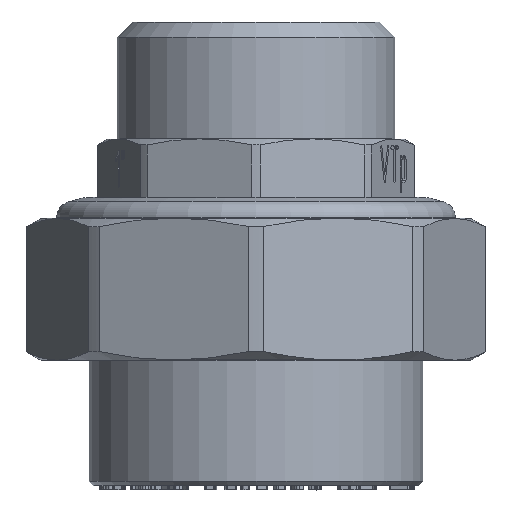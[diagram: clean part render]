
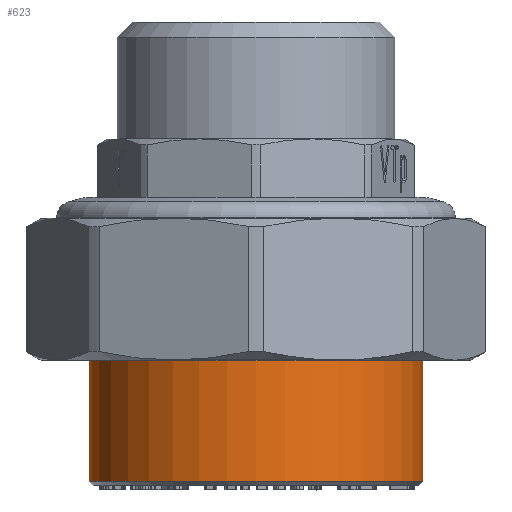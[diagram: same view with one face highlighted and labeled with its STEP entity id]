
A CAD part, top view. The second image highlights one B-rep face of the part: STEP entity #623.
In plain terms, the highlighted cylindrical face has radius 20 mm (diameter 40 mm), a full revolution.
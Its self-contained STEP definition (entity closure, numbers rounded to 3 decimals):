
#623=ADVANCED_FACE('',(#4438,#4440),#4442,.T.);
#4438=FACE_OUTER_BOUND('',#4439,.T.);
#4439=EDGE_LOOP('',(#10556));
#4440=FACE_OUTER_BOUND('',#4441,.T.);
#4441=EDGE_LOOP('',(#10557));
#4442=CYLINDRICAL_SURFACE('',#4443,20.);
#4443=AXIS2_PLACEMENT_3D('',#4444,#4445,#4446);
#4444=CARTESIAN_POINT('',(0.,0.,0.));
#4445=DIRECTION('',(0.,1.,0.));
#4446=DIRECTION('',(-1.,0.,0.));
#10556=ORIENTED_EDGE('',*,*,#14030,.F.);
#10557=ORIENTED_EDGE('',*,*,#14027,.T.);
#14027=EDGE_CURVE('',#17344,#17344,#17345,.T.);
#14030=EDGE_CURVE('',#17349,#17349,#17350,.T.);
#17344=VERTEX_POINT('',#24236);
#17345=CIRCLE('',#24237,20.);
#17349=VERTEX_POINT('',#24249);
#17350=CIRCLE('',#24250,20.);
#24236=CARTESIAN_POINT('',(-20.,0.5,0.));
#24237=AXIS2_PLACEMENT_3D('',#24238,#24239,#24240);
#24238=CARTESIAN_POINT('',(0.,0.5,0.));
#24239=DIRECTION('',(0.,1.,0.));
#24240=DIRECTION('',(-1.,0.,0.));
#24249=CARTESIAN_POINT('',(-20.,18.5,0.));
#24250=AXIS2_PLACEMENT_3D('',#24251,#24252,#24253);
#24251=CARTESIAN_POINT('',(0.,18.5,0.));
#24252=DIRECTION('',(0.,1.,0.));
#24253=DIRECTION('',(-1.,0.,0.));
